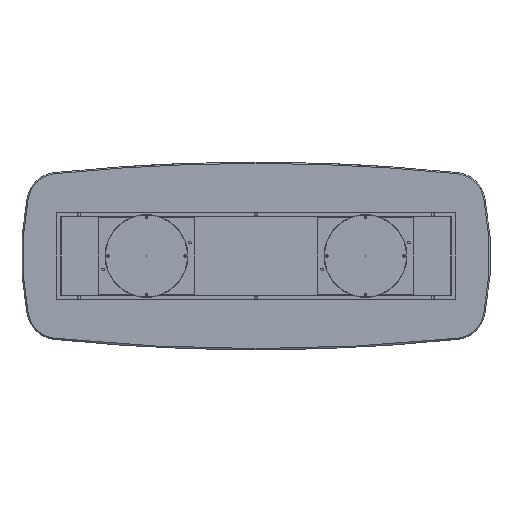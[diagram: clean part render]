
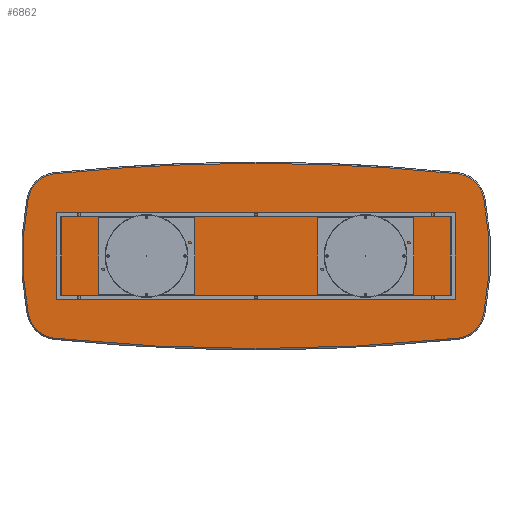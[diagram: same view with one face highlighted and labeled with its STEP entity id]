
A CAD part, front view. The second image highlights one B-rep face of the part: STEP entity #6862.
In plain terms, the highlighted planar face has unit normal (0, -1, 0).
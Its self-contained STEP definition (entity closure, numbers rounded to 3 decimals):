
#140 = DIRECTION ( 'NONE',  ( 0., 0., 1. ) ) ;
#401 = VERTEX_POINT ( 'NONE', #13242 ) ;
#436 = EDGE_CURVE ( 'NONE', #1856, #401, #8494, .T. ) ;
#459 = CIRCLE ( 'NONE', #6875, 192. ) ;
#570 = CARTESIAN_POINT ( 'NONE',  ( -1454.991, 0., -372.386 ) ) ;
#586 = CARTESIAN_POINT ( 'NONE',  ( -1266.747, 0., -334.597 ) ) ;
#633 = CIRCLE ( 'NONE', #3825, 12492. ) ;
#907 = VERTEX_POINT ( 'NONE', #570 ) ;
#1040 = ORIENTED_EDGE ( 'NONE', *, *, #4805, .T. ) ;
#1047 = EDGE_CURVE ( 'NONE', #13902, #907, #2268, .T. ) ;
#1406 = CARTESIAN_POINT ( 'NONE',  ( -1454.991, 0., 372.386 ) ) ;
#1822 = EDGE_CURVE ( 'NONE', #907, #1856, #459, .T. ) ;
#1856 = VERTEX_POINT ( 'NONE', #8344 ) ;
#1955 = ORIENTED_EDGE ( 'NONE', *, *, #12937, .T. ) ;
#2148 = CARTESIAN_POINT ( 'NONE',  ( 1266.747, 0., 334.597 ) ) ;
#2163 = DIRECTION ( 'NONE',  ( 0., -1., 0. ) ) ;
#2268 = CIRCLE ( 'NONE', #13072, 1892. ) ;
#2606 = AXIS2_PLACEMENT_3D ( 'NONE', #6071, #11631, #9252 ) ;
#2753 = ORIENTED_EDGE ( 'NONE', *, *, #1047, .T. ) ;
#2904 = ORIENTED_EDGE ( 'NONE', *, *, #6662, .T. ) ;
#2929 = AXIS2_PLACEMENT_3D ( 'NONE', #11273, #4687, #13417 ) ;
#3046 = DIRECTION ( 'NONE',  ( 0., 0., 1. ) ) ;
#3157 = AXIS2_PLACEMENT_3D ( 'NONE', #9741, #6496, #3046 ) ;
#3550 = ORIENTED_EDGE ( 'NONE', *, *, #436, .T. ) ;
#3666 = EDGE_CURVE ( 'NONE', #10239, #5417, #7905, .T. ) ;
#3755 = ORIENTED_EDGE ( 'NONE', *, *, #1822, .T. ) ;
#3825 = AXIS2_PLACEMENT_3D ( 'NONE', #3965, #8364, #8858 ) ;
#3965 = CARTESIAN_POINT ( 'NONE',  ( 0., 0., -11900. ) ) ;
#4050 = CIRCLE ( 'NONE', #8425, 192. ) ;
#4360 = DIRECTION ( 'NONE',  ( 0., 0., 1. ) ) ;
#4405 = DIRECTION ( 'NONE',  ( 0., 0., 1. ) ) ;
#4545 = CARTESIAN_POINT ( 'NONE',  ( 1454.991, 0., 372.386 ) ) ;
#4687 = DIRECTION ( 'NONE',  ( 0., -1., 0. ) ) ;
#4805 = EDGE_CURVE ( 'NONE', #5417, #10503, #13658, .T. ) ;
#5098 = ORIENTED_EDGE ( 'NONE', *, *, #6275, .T. ) ;
#5417 = VERTEX_POINT ( 'NONE', #4545 ) ;
#5964 = DIRECTION ( 'NONE',  ( 0., -1., 0. ) ) ;
#6071 = CARTESIAN_POINT ( 'NONE',  ( -400., 0., 0. ) ) ;
#6157 = EDGE_LOOP ( 'NONE', ( #3755, #3550, #5098, #9512, #1040, #1955, #7106, #2904, #2753 ) ) ;
#6187 = CARTESIAN_POINT ( 'NONE',  ( 0., 0., 592. ) ) ;
#6216 = CARTESIAN_POINT ( 'NONE',  ( 1454.991, 0., -372.386 ) ) ;
#6275 = EDGE_CURVE ( 'NONE', #401, #10239, #4050, .T. ) ;
#6303 = AXIS2_PLACEMENT_3D ( 'NONE', #2148, #6525, #4360 ) ;
#6496 = DIRECTION ( 'NONE',  ( 0., 1., 0. ) ) ;
#6525 = DIRECTION ( 'NONE',  ( 0., -1., 0. ) ) ;
#6662 = EDGE_CURVE ( 'NONE', #7611, #13902, #10750, .T. ) ;
#6862 = ADVANCED_FACE ( 'NONE', ( #8733 ), #11910, .F. ) ;
#6875 = AXIS2_PLACEMENT_3D ( 'NONE', #586, #11532, #13826 ) ;
#7106 = ORIENTED_EDGE ( 'NONE', *, *, #9951, .T. ) ;
#7599 = CARTESIAN_POINT ( 'NONE',  ( 400., 0., 0. ) ) ;
#7611 = VERTEX_POINT ( 'NONE', #7696 ) ;
#7612 = DIRECTION ( 'NONE',  ( 0., 0., 1. ) ) ;
#7696 = CARTESIAN_POINT ( 'NONE',  ( -1286.52, 0., 525.576 ) ) ;
#7823 = DIRECTION ( 'NONE',  ( 0., -1., 0. ) ) ;
#7884 = CARTESIAN_POINT ( 'NONE',  ( 0., 0., -11900. ) ) ;
#7905 = CIRCLE ( 'NONE', #2606, 1892. ) ;
#8344 = CARTESIAN_POINT ( 'NONE',  ( -1286.52, 0., -525.576 ) ) ;
#8364 = DIRECTION ( 'NONE',  ( 0., -1., 0. ) ) ;
#8425 = AXIS2_PLACEMENT_3D ( 'NONE', #12094, #2163, #140 ) ;
#8494 = CIRCLE ( 'NONE', #10069, 12492. ) ;
#8733 = FACE_OUTER_BOUND ( 'NONE', #6157, .T. ) ;
#8858 = DIRECTION ( 'NONE',  ( 0., 0., 1. ) ) ;
#9252 = DIRECTION ( 'NONE',  ( 0., 0., 1. ) ) ;
#9282 = DIRECTION ( 'NONE',  ( 0., 0., 1. ) ) ;
#9512 = ORIENTED_EDGE ( 'NONE', *, *, #3666, .T. ) ;
#9741 = CARTESIAN_POINT ( 'NONE',  ( -200., 0., 5950. ) ) ;
#9951 = EDGE_CURVE ( 'NONE', #11425, #7611, #13016, .T. ) ;
#10069 = AXIS2_PLACEMENT_3D ( 'NONE', #10594, #5964, #9282 ) ;
#10171 = CARTESIAN_POINT ( 'NONE',  ( 1286.52, 0., 525.576 ) ) ;
#10239 = VERTEX_POINT ( 'NONE', #6216 ) ;
#10503 = VERTEX_POINT ( 'NONE', #10171 ) ;
#10594 = CARTESIAN_POINT ( 'NONE',  ( 0., 0., 11900. ) ) ;
#10750 = CIRCLE ( 'NONE', #2929, 192. ) ;
#11273 = CARTESIAN_POINT ( 'NONE',  ( -1266.747, 0., 334.597 ) ) ;
#11425 = VERTEX_POINT ( 'NONE', #6187 ) ;
#11532 = DIRECTION ( 'NONE',  ( 0., -1., 0. ) ) ;
#11623 = AXIS2_PLACEMENT_3D ( 'NONE', #7884, #7823, #7612 ) ;
#11631 = DIRECTION ( 'NONE',  ( 0., -1., 0. ) ) ;
#11910 = PLANE ( 'NONE',  #3157 ) ;
#12094 = CARTESIAN_POINT ( 'NONE',  ( 1266.747, 0., -334.597 ) ) ;
#12126 = DIRECTION ( 'NONE',  ( 0., -1., 0. ) ) ;
#12937 = EDGE_CURVE ( 'NONE', #10503, #11425, #633, .T. ) ;
#13016 = CIRCLE ( 'NONE', #11623, 12492. ) ;
#13072 = AXIS2_PLACEMENT_3D ( 'NONE', #7599, #12126, #4405 ) ;
#13242 = CARTESIAN_POINT ( 'NONE',  ( 1286.52, 0., -525.576 ) ) ;
#13417 = DIRECTION ( 'NONE',  ( 0., 0., 1. ) ) ;
#13658 = CIRCLE ( 'NONE', #6303, 192. ) ;
#13826 = DIRECTION ( 'NONE',  ( 0., 0., 1. ) ) ;
#13902 = VERTEX_POINT ( 'NONE', #1406 ) ;
